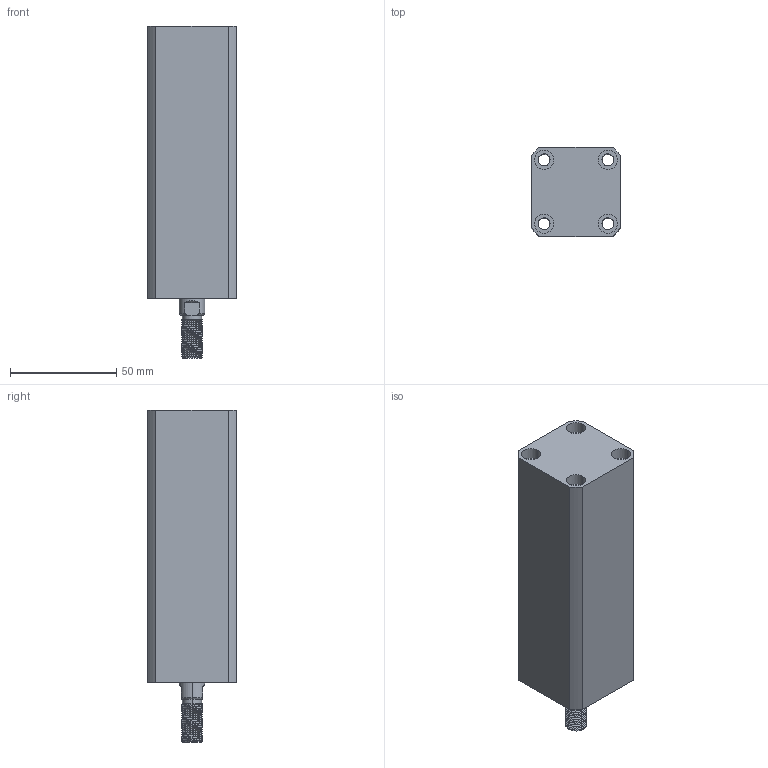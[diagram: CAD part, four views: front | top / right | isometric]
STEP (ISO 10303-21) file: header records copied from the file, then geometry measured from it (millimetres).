
FILE_DESCRIPTION (( 'STEP AP214' ), '1' );
FILE_NAME ('chtb-sd20x85w_asm.STEP', '2018-05-16T09:52:50', ( 'Windows' ), ( 'Microsoft' ), 'SwSTEP 2.0', 'SolidWorks 2015', '' );
FILE_SCHEMA (( 'AUTOMOTIVE_DESIGN' ));
Length unit declared in the file: millimetre
Products named in the file (4): QG; CHTB-SD20X85WHSG; CHTB-SD20X85NBT; chtb-sd20x85w_asm
Assembly tree (3 placements, depth 2):
  chtb-sd20x85w_asm
    CHTB-SD20X85NBT
    CHTB-SD20X85WHSG
    QG
Bounding box: 42 x 42 x 156 mm (x, y, z)
Volume: 189871 mm3; surface area: 53293 mm2
Topology: 3 solids, 3 shells, 234 faces, 624 edges, 415 vertices
Faces by surface type: cylinder 139, plane 40, torus 25, bspline 21, cone 9
Entity records: 13734 total; most frequent: CARTESIAN_POINT 8172, ORIENTED_EDGE 1240, DIRECTION 1039, EDGE_CURVE 620, AXIS2_PLACEMENT_3D 431, VERTEX_POINT 415, EDGE_LOOP 271, ADVANCED_FACE 234
